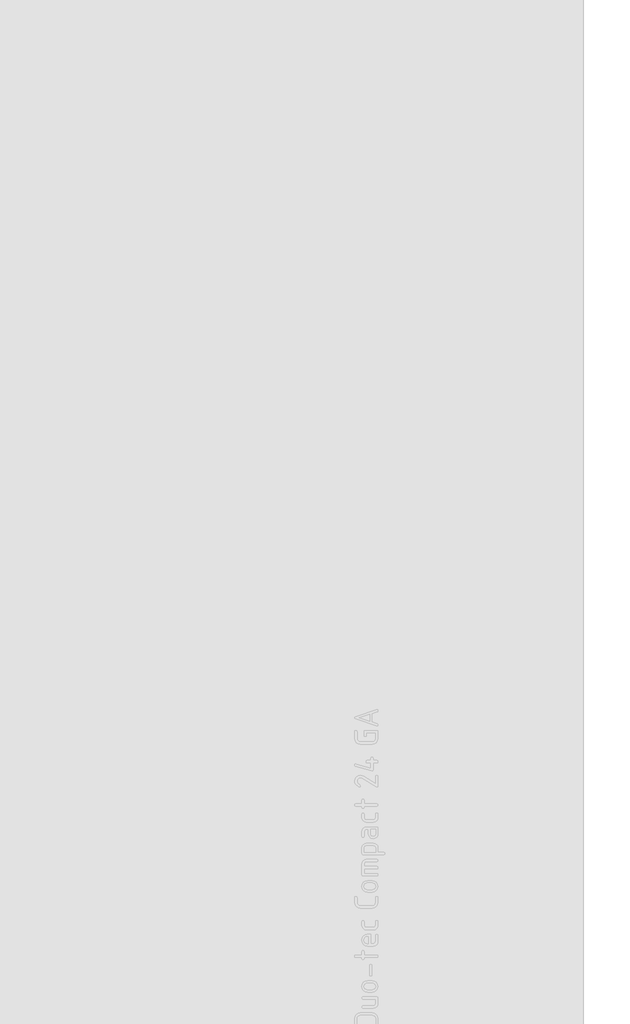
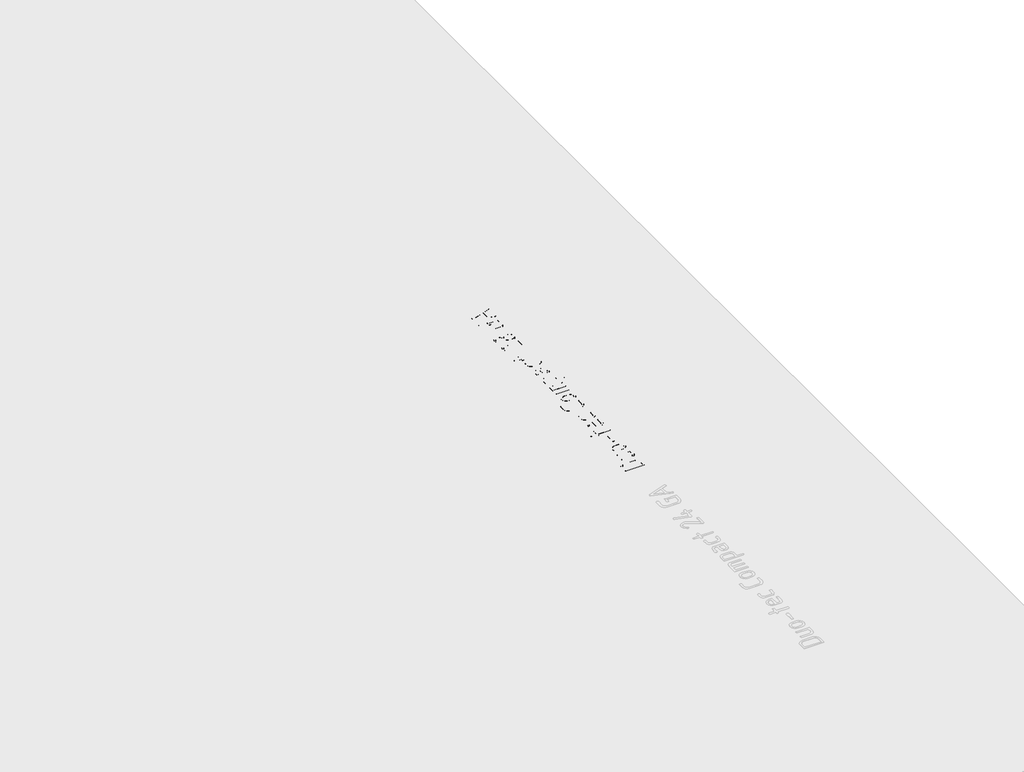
# One storey, part 37 of 37: 1 proxy.
"""IFC4 building model written with IfcOpenShell, lengths in millimetres."""

from ifc_helpers import new_model, si_unit, frame, origin, place, context, project, spatial, polyline, outline, extrude, element, save

model = new_model("IFC4")

# Units and contexts
model_context = context("Model", 3, world=origin())
ifc_project = project(units=[si_unit("LENGTHUNIT", "METRE", prefix="MILLI")], contexts=[model_context])

# Site, building, storey
site = spatial("IfcSite", under=ifc_project)
building = spatial("IfcBuilding", under=site)
storey = spatial("IfcBuildingStorey", under=building, Name="01_Стартовый вид_Площадка", Elevation=0.0)

# Proxy
placement = place(None, origin())
element("IfcBuildingElementProxy", 1, Name="150 мм", ObjectType="150 мм", at=placement, inside=storey, context=model_context, shape_type="SweptSolid", body=[
    extrude(outline(polyline([(25779.2874063, 77.7990173), (25773.6242667, 79.6667547), (25771.7365535, 85.2699669), (25771.7365535, 130.0157613), (25774.4632504, 144.4882291), (25782.6433409, 156.5036734), (25794.7986158, 164.5938729), (25809.4508659, 167.290606), (25884.8794906, 167.290606), (25899.3819222, 164.5639092), (25911.5671608, 156.3838186), (25919.8371424, 144.3384106), (25922.593803, 130.0157613), (25922.593803, 85.2699669), (25920.7060898, 79.6667547), (25915.0429502, 77.7990173), (25779.2874063, 77.7990173)]), holes=[polyline([(25787.0779687, 93.1404325), (25907.2523878, 93.1404325), (25907.2523878, 129.8959065), (25905.6043842, 138.37064), (25900.6603734, 145.4970071), (25893.3791939, 150.3361449), (25884.7196842, 151.9491908), (25809.6106723, 151.9491908), (25800.9511625, 150.3361449), (25793.6699831, 145.4970071), (25788.7259723, 138.37064), (25787.0779687, 129.8959065), (25787.0779687, 93.1404325)])]), frame((0.0, 0.0, -10.0), z_axis=(0.0, 0.0, 1.0), x_axis=(1.0, 0.0, 0.0)), (0.0, 0.0, 1.0), 10.0),
    extrude(outline(polyline([(25825.2317487, 272.1236099), (25915.1228534, 272.1236099), (25920.7260656, 270.2658604), (25922.593803, 264.6926119), (25922.593803, 227.6175251), (25920.4264285, 216.1214516), (25913.9243053, 206.5630308), (25904.2660055, 200.120835), (25892.6301014, 197.9734364), (25825.2317487, 197.9734364), (25819.6285365, 199.8911133), (25817.7607991, 205.644144), (25819.6285365, 211.3971747), (25825.2317487, 213.3148516), (25892.3504402, 213.3148516), (25902.8377357, 217.589673), (25907.2523878, 227.8172831), (25907.2523878, 256.7821947), (25825.2317487, 256.7821947), (25819.6285365, 258.6998716), (25817.7607991, 264.4529023), (25819.6285365, 270.205933), (25825.2317487, 272.1236099)])), frame((0.0, 0.0, -10.0), z_axis=(0.0, 0.0, 1.0), x_axis=(1.0, 0.0, 0.0)), (0.0, 0.0, 1.0), 10.0),
    extrude(outline(polyline([(25885.1591518, 302.8064402), (25855.1954503, 302.8064402), (25840.8028856, 305.5181552), (25828.7075381, 313.6533002), (25820.4974839, 325.6337869), (25817.7607991, 339.881527), (25820.4675201, 354.2790856), (25828.5876833, 366.2296085), (25840.6530671, 374.2748624), (25855.1954503, 376.9566137), (25885.1591518, 376.9566137), (25899.5517165, 374.2448987), (25911.647064, 366.1097537), (25919.8571182, 354.1292671), (25922.593803, 339.881527), (25919.8571182, 325.6337869), (25911.647064, 313.6533002), (25899.5517165, 305.5181552), (25885.1591518, 302.8064402)]), holes=[polyline([(25884.7196842, 361.6151985), (25854.716031, 361.6151985), (25846.086485, 360.0221284), (25838.8152934, 355.242918), (25833.8712826, 348.21643), (25832.2232791, 339.881527), (25833.8712826, 331.546624), (25838.8152934, 324.520136), (25846.086485, 319.7409256), (25854.716031, 318.1478554), (25884.7196842, 318.1478554), (25893.4291334, 319.7259437), (25900.700325, 324.4602086), (25905.6143721, 331.4717147), (25907.2523878, 339.881527), (25905.6043842, 348.21643), (25900.6603734, 355.242918), (25893.3791939, 360.0221284), (25884.7196842, 361.6151985)])]), frame((0.0, 0.0, -10.0), z_axis=(0.0, 0.0, 1.0), x_axis=(1.0, 0.0, 0.0)), (0.0, 0.0, 1.0), 10.0),
    extrude(outline(polyline([(25884.240265, 474.7980872), (25884.240265, 414.7907809), (25882.3225881, 409.157605), (25876.5695574, 407.2798797), (25870.8165267, 409.157605), (25868.8988498, 414.7907809), (25868.8988498, 474.7980872), (25870.8165267, 480.4312631), (25876.5695574, 482.3089884), (25882.3225881, 480.4312631), (25884.240265, 474.7980872)])), frame((0.0, 0.0, -10.0), z_axis=(0.0, 0.0, 1.0), x_axis=(1.0, 0.0, 0.0)), (0.0, 0.0, 1.0), 10.0),
    extrude(outline(polyline([(25833.1022143, 527.8138631), (25833.1022143, 520.302962), (25831.1845374, 514.6697861), (25825.4315067, 512.7920608), (25819.678476, 514.6697861), (25817.7607991, 520.302962), (25817.7607991, 527.8138631), (25779.4072611, 527.8138631), (25773.6542304, 529.73154), (25771.7365535, 535.4845707), (25773.6542304, 541.2376014), (25779.4072611, 543.1552783), (25817.7607991, 543.1552783), (25817.7607991, 565.6879819), (25819.678476, 571.2911941), (25825.4315067, 573.1589315), (25831.1845374, 571.2911941), (25833.1022143, 565.6879819), (25833.1022143, 543.1552783), (25915.1228534, 543.1552783), (25920.7260656, 541.2376014), (25922.593803, 535.4845707), (25920.7260656, 529.73154), (25915.1228534, 527.8138631), (25833.1022143, 527.8138631)])), frame((0.0, 0.0, -10.0), z_axis=(0.0, 0.0, 1.0), x_axis=(1.0, 0.0, 0.0)), (0.0, 0.0, 1.0), 10.0),
    extrude(outline(polyline([(25876.5695574, 617.3054518), (25891.9109726, 617.3054518), (25902.7178809, 621.7400796), (25907.2523878, 632.2873026), (25907.2523878, 669.8018569), (25909.1700647, 675.4350328), (25914.9230954, 677.3127581), (25920.6761261, 675.4350328), (25922.593803, 669.8018569), (25922.593803, 632.2873026), (25920.4264285, 620.6314227), (25913.9243053, 610.8332923), (25904.2660055, 604.1813505), (25892.6301014, 601.9640366), (25855.1954503, 601.9640366), (25840.8028856, 604.7456669), (25828.7075381, 613.0905578), (25820.4974839, 625.3307299), (25817.7607991, 639.7982038), (25820.4175806, 654.3755446), (25828.3879253, 666.4658982), (25840.2335753, 674.6010431), (25854.516273, 677.3127581), (25876.5695574, 677.3127581), (25876.5695574, 617.3054518)]), holes=[polyline([(25831.224489, 639.7982038), (25832.8724926, 631.1686577), (25837.8165034, 623.8974661), (25845.0876949, 618.9534554), (25853.717241, 617.3054518), (25861.2281422, 617.3054518), (25861.2281422, 662.2909557), (25853.717241, 662.2909557), (25845.0876949, 660.6429521), (25837.8165034, 655.6989414), (25832.8724926, 648.4277498), (25831.224489, 639.7982038)])]), frame((0.0, 0.0, -10.0), z_axis=(0.0, 0.0, 1.0), x_axis=(1.0, 0.0, 0.0)), (0.0, 0.0, 1.0), 10.0),
    extrude(outline(polyline([(25847.9242587, 722.1384556), (25892.4303434, 722.1384556), (25902.8776873, 726.5730835), (25907.2523878, 737.1203064), (25907.2523878, 759.65301), (25909.1700647, 765.2562222), (25914.9230954, 767.1239596), (25920.6761261, 765.2562222), (25922.593803, 759.65301), (25922.593803, 737.1203064), (25920.4264285, 725.4644265), (25913.9243053, 715.6662961), (25904.2660055, 709.0143544), (25892.6301014, 706.7970404), (25847.7245007, 706.7970404), (25836.0885966, 709.0143544), (25826.4302968, 715.6662961), (25819.9281735, 725.4644265), (25817.7607991, 737.1203064), (25817.7607991, 759.65301), (25819.678476, 765.2562222), (25825.4315067, 767.1239596), (25831.1845374, 765.2562222), (25833.1022143, 759.65301), (25833.1022143, 737.1203064), (25837.4369631, 726.5131561), (25847.9242587, 722.1384556)])), frame((0.0, 0.0, -10.0), z_axis=(0.0, 0.0, 1.0), x_axis=(1.0, 0.0, 0.0)), (0.0, 0.0, 1.0), 10.0),
    extrude(outline(polyline([(25771.7365535, 915.2645001), (25773.6542304, 920.897676), (25779.4072611, 922.7754013), (25785.1602918, 920.897676), (25787.0779687, 915.2645001), (25787.0779687, 885.2608469), (25788.7259723, 876.5563916), (25793.6699831, 869.3001819), (25800.9511625, 864.4011167), (25809.6106723, 862.768095), (25884.7196842, 862.768095), (25893.3791939, 864.4160985), (25900.6603734, 869.3601093), (25905.6043842, 876.6313009), (25907.2523878, 885.2608469), (25907.2523878, 915.2645001), (25909.1700647, 920.897676), (25914.9230954, 922.7754013), (25920.6761261, 920.897676), (25922.593803, 915.2645001), (25922.593803, 885.2608469), (25919.8371424, 870.793373), (25911.5671608, 858.5532009), (25899.3819222, 850.2083101), (25884.8794906, 847.4266798), (25809.4508659, 847.4266798), (25794.9484343, 850.2083101), (25782.7631957, 858.5532009), (25774.4932141, 870.793373), (25771.7365535, 885.2608469), (25771.7365535, 915.2645001)])), frame((0.0, 0.0, -10.0), z_axis=(0.0, 0.0, 1.0), x_axis=(1.0, 0.0, 0.0)), (0.0, 0.0, 1.0), 10.0),
    extrude(outline(polyline([(25885.1591518, 952.2596836), (25855.1954503, 952.2596836), (25840.8028856, 954.9713986), (25828.7075381, 963.1065436), (25820.4974839, 975.0870302), (25817.7607991, 989.3347703), (25820.4675201, 1003.7323289), (25828.5876833, 1015.6828519), (25840.6530671, 1023.7281058), (25855.1954503, 1026.4098571), (25885.1591518, 1026.4098571), (25899.5517165, 1023.6981421), (25911.647064, 1015.5629971), (25919.8571182, 1003.5825104), (25922.593803, 989.3347703), (25919.8571182, 975.0870302), (25911.647064, 963.1065436), (25899.5517165, 954.9713986), (25885.1591518, 952.2596836)]), holes=[polyline([(25884.7196842, 1011.0684419), (25854.716031, 1011.0684419), (25846.086485, 1009.4753717), (25838.8152934, 1004.6961613), (25833.8712826, 997.6696733), (25832.2232791, 989.3347703), (25833.8712826, 980.9998674), (25838.8152934, 973.9733793), (25846.086485, 969.1941689), (25854.716031, 967.6010988), (25884.7196842, 967.6010988), (25893.4291334, 969.1791871), (25900.700325, 973.9134519), (25905.6143721, 980.9249581), (25907.2523878, 989.3347703), (25905.6043842, 997.6696733), (25900.6603734, 1004.6961613), (25893.3791939, 1009.4753717), (25884.7196842, 1011.0684419)])]), frame((0.0, 0.0, -10.0), z_axis=(0.0, 0.0, 1.0), x_axis=(1.0, 0.0, 0.0)), (0.0, 0.0, 1.0), 10.0),
    extrude(outline(polyline([(25817.7607991, 1064.7633951), (25817.7607991, 1133.7997634), (25819.9281735, 1145.7003469), (25826.4302968, 1155.5933624), (25836.0885966, 1162.260286), (25847.7245007, 1164.4825938), (25915.1228534, 1164.4825938), (25920.7260656, 1162.5649169), (25922.593803, 1156.8118862), (25920.7260656, 1151.0588555), (25915.1228534, 1149.1411786), (25848.0041619, 1149.1411786), (25837.3970115, 1144.7265266), (25833.1022143, 1133.7997634), (25833.1022143, 1118.4583482), (25915.1228534, 1118.4583482), (25920.7260656, 1116.5406713), (25922.593803, 1110.7876406), (25920.7260656, 1105.0346099), (25915.1228534, 1103.116933), (25833.1022143, 1103.116933), (25833.1022143, 1072.4341027), (25915.1228534, 1072.4341027), (25920.7260656, 1070.5164258), (25922.593803, 1064.7633951), (25920.7260656, 1059.0103644), (25915.1228534, 1057.0926875), (25825.2317487, 1057.0926875), (25819.6285365, 1059.0103644), (25817.7607991, 1064.7633951)])), frame((0.0, 0.0, -10.0), z_axis=(0.0, 0.0, 1.0), x_axis=(1.0, 0.0, 0.0)), (0.0, 0.0, 1.0), 10.0),
    extrude(outline(polyline([(25825.3116519, 1195.1654242), (25819.6485123, 1197.0231737), (25817.7607991, 1202.5964222), (25817.7607991, 1239.6715089), (25819.9281735, 1251.1675824), (25826.4302968, 1260.7260032), (25836.0885966, 1267.1681991), (25847.7245007, 1269.3155977), (25892.6301014, 1269.3155977), (25904.1910963, 1267.1831809), (25913.8643779, 1260.7859306), (25920.4114467, 1251.3024191), (25922.593803, 1239.9112186), (25922.593803, 1210.5068394), (25960.947341, 1210.5068394), (25966.7003717, 1208.5891625), (25968.6180486, 1202.8361318), (25966.7303354, 1197.0831011), (25961.0671958, 1195.1654242), (25825.3116519, 1195.1654242)]), holes=[polyline([(25833.1022143, 1210.5068394), (25907.2523878, 1210.5068394), (25907.2523878, 1239.4717509), (25902.9176389, 1249.7393127), (25892.4303434, 1253.9741825), (25847.9242587, 1253.9741825), (25837.3770357, 1249.7992401), (25833.1022143, 1239.4717509), (25833.1022143, 1210.5068394)])]), frame((0.0, 0.0, -10.0), z_axis=(0.0, 0.0, 1.0), x_axis=(1.0, 0.0, 0.0)), (0.0, 0.0, 1.0), 10.0),
    extrude(outline(polyline([(25922.593803, 1328.8035332), (25920.3714951, 1317.1876049), (25913.7045715, 1307.5093293), (25903.811556, 1300.9772423), (25891.9109726, 1298.79988), (25876.4497026, 1302.7950402), (25865.0335323, 1313.5520091), (25861.2281422, 1328.8035332), (25861.2281422, 1358.8071863), (25847.1651782, 1358.8071863), (25837.1573019, 1354.4924133), (25833.1022143, 1343.8253356), (25833.1022143, 1313.8216824), (25831.1845374, 1308.1885065), (25825.4315067, 1306.3107812), (25819.678476, 1308.1885065), (25817.7607991, 1313.8216824), (25817.7607991, 1343.8253356), (25819.9281735, 1355.5061852), (25826.4302968, 1365.2993217), (25836.0885966, 1371.9362816), (25847.7245007, 1374.1486015), (25915.1228534, 1374.1486015), (25920.7260656, 1372.2309246), (25922.593803, 1366.4778939), (25922.593803, 1328.8035332)]), holes=[polyline([(25876.5695574, 1358.8071863), (25876.5695574, 1328.8035332), (25881.0441368, 1318.1963828), (25891.9109726, 1313.8216824), (25902.7178809, 1318.2563102), (25907.2523878, 1328.8035332), (25907.2523878, 1358.8071863), (25876.5695574, 1358.8071863)])]), frame((0.0, 0.0, -10.0), z_axis=(0.0, 0.0, 1.0), x_axis=(1.0, 0.0, 0.0)), (0.0, 0.0, 1.0), 10.0),
    extrude(outline(polyline([(25847.9242587, 1420.1728471), (25892.4303434, 1420.1728471), (25902.8776873, 1424.607475), (25907.2523878, 1435.1546979), (25907.2523878, 1457.6874015), (25909.1700647, 1463.2906137), (25914.9230954, 1465.1583511), (25920.6761261, 1463.2906137), (25922.593803, 1457.6874015), (25922.593803, 1435.1546979), (25920.4264285, 1423.498818), (25913.9243053, 1413.7006876), (25904.2660055, 1407.0487458), (25892.6301014, 1404.8314319), (25847.7245007, 1404.8314319), (25836.0885966, 1407.0487458), (25826.4302968, 1413.7006876), (25819.9281735, 1423.498818), (25817.7607991, 1435.1546979), (25817.7607991, 1457.6874015), (25819.678476, 1463.2906137), (25825.4315067, 1465.1583511), (25831.1845374, 1463.2906137), (25833.1022143, 1457.6874015), (25833.1022143, 1435.1546979), (25837.4369631, 1424.5475476), (25847.9242587, 1420.1728471)])), frame((0.0, 0.0, -10.0), z_axis=(0.0, 0.0, 1.0), x_axis=(1.0, 0.0, 0.0)), (0.0, 0.0, 1.0), 10.0),
    extrude(outline(polyline([(25833.1022143, 1509.6644358), (25833.1022143, 1502.1535346), (25831.1845374, 1496.5203587), (25825.4315067, 1494.6426334), (25819.678476, 1496.5203587), (25817.7607991, 1502.1535346), (25817.7607991, 1509.6644358), (25779.4072611, 1509.6644358), (25773.6542304, 1511.5821127), (25771.7365535, 1517.3351434), (25773.6542304, 1523.0881741), (25779.4072611, 1525.005851), (25817.7607991, 1525.005851), (25817.7607991, 1547.5385546), (25819.678476, 1553.1417667), (25825.4315067, 1555.0095041), (25831.1845374, 1553.1417667), (25833.1022143, 1547.5385546), (25833.1022143, 1525.005851), (25915.1228534, 1525.005851), (25920.7260656, 1523.0881741), (25922.593803, 1517.3351434), (25920.7260656, 1511.5821127), (25915.1228534, 1509.6644358), (25833.1022143, 1509.6644358)])), frame((0.0, 0.0, -10.0), z_axis=(0.0, 0.0, 1.0), x_axis=(1.0, 0.0, 0.0)), (0.0, 0.0, 1.0), 10.0),
    extrude(outline(polyline([(25771.7365535, 1672.1076498), (25774.4882201, 1686.5351721), (25782.7432199, 1698.6554894), (25794.9034888, 1706.8805255), (25809.3709627, 1709.6222042), (25820.1678831, 1707.9142732), (25831.0646826, 1702.7904802), (25907.2523878, 1655.527735), (25907.2523878, 1702.111303), (25909.1700647, 1707.7444789), (25914.9230954, 1709.6222042), (25920.6761261, 1707.7444789), (25922.593803, 1702.111303), (25922.593803, 1642.1039967), (25920.7160777, 1636.4708208), (25915.0829018, 1634.5930955), (25910.7281771, 1635.8715467), (25822.1155237, 1690.8449512), (25809.6506239, 1694.6004018), (25800.9861202, 1692.9523982), (25793.6899589, 1688.0083875), (25788.7309662, 1680.7371959), (25787.0779687, 1672.1076498), (25791.7922578, 1659.8724717), (25805.9351249, 1648.5761562), (25809.5707207, 1642.1039967), (25807.6929954, 1636.4708208), (25802.0598195, 1634.5930955), (25798.9835461, 1635.3122243), (25778.5483017, 1651.4826353), (25773.4394906, 1661.2383171), (25771.7365535, 1672.1076498)])), frame((0.0, 0.0, -10.0), z_axis=(0.0, 0.0, 1.0), x_axis=(1.0, 0.0, 0.0)), (0.0, 0.0, 1.0), 10.0),
    extrude(outline(polyline([(25922.593803, 1776.8607505), (25919.8371424, 1762.6130104), (25911.5671608, 1750.6325237), (25899.3819222, 1742.4973787), (25884.8794906, 1739.7856637), (25869.777785, 1739.7856637), (25852.8682694, 1743.6210175), (25839.6143254, 1755.1270789), (25826.3603815, 1743.6210175), (25809.4508659, 1739.7856637), (25794.9484343, 1742.4973787), (25782.7631957, 1750.6325237), (25774.4932141, 1762.6130104), (25771.7365535, 1776.8607505), (25774.4932141, 1791.1084906), (25782.7631957, 1803.0889772), (25794.9484343, 1811.2241222), (25809.4508659, 1813.9358372), (25826.3603815, 1810.1004834), (25839.6143254, 1798.594422), (25848.793206, 1806.8444278), (25859.8697877, 1811.3789347), (25884.8794906, 1813.9358372), (25899.3819222, 1811.2241222), (25911.5671608, 1803.0889772), (25919.8371424, 1791.1084906), (25922.593803, 1776.8607505)]), holes=[polyline([(25907.2523878, 1776.8607505), (25905.6143721, 1785.2705627), (25900.700325, 1792.2820689), (25893.4291334, 1797.0163337), (25884.7196842, 1798.594422), (25869.7378334, 1798.594422), (25861.1082874, 1797.0013519), (25853.8370958, 1792.2221415), (25848.893085, 1785.1956535), (25847.2450814, 1776.8607505), (25848.8781032, 1768.4509382), (25853.7771684, 1761.4394321), (25861.0333781, 1756.7051672), (25869.7378334, 1755.1270789), (25884.7196842, 1755.1270789), (25893.4291334, 1756.7051672), (25900.700325, 1761.4394321), (25905.6143721, 1768.4509382), (25907.2523878, 1776.8607505)]), polyline([(25832.5828435, 1776.8607505), (25830.9498217, 1785.2705627), (25826.0507565, 1792.2820689), (25818.7945468, 1797.0163337), (25810.0900915, 1798.594422), (25801.4605455, 1797.0013519), (25794.1893539, 1792.2221415), (25789.2453431, 1785.1956535), (25787.5973395, 1776.8607505), (25789.2303613, 1768.4509382), (25794.1294265, 1761.4394321), (25801.3856362, 1756.7051672), (25810.0900915, 1755.1270789), (25818.7945468, 1756.7051672), (25826.0507565, 1761.4394321), (25830.9498217, 1768.4509382), (25832.5828435, 1776.8607505)])]), frame((0.0, 0.0, -10.0), z_axis=(0.0, 0.0, 1.0), x_axis=(1.0, 0.0, 0.0)), (0.0, 0.0, 1.0), 10.0),
    extrude(outline(polyline([(25907.2523878, 1933.1514178), (25907.2523878, 1969.9068917), (25848.4436295, 1969.9068917), (25848.4436295, 1954.8850893), (25846.5259526, 1949.2818771), (25840.7729219, 1947.4141397), (25835.0198912, 1949.2818771), (25833.1022143, 1954.8850893), (25833.1022143, 1977.5775993), (25834.9699517, 1983.33063), (25840.5731639, 1985.2483069), (25915.1228534, 1985.2483069), (25920.7260656, 1983.3805695), (25922.593803, 1977.7773573), (25922.593803, 1933.031563), (25919.8371424, 1918.7089136), (25911.5671608, 1906.6635056), (25899.3819222, 1898.4834151), (25884.8794906, 1895.7567183), (25809.4508659, 1895.7567183), (25794.9484343, 1898.4834151), (25782.7631957, 1906.6635056), (25774.4932141, 1918.7089136), (25771.7365535, 1933.031563), (25771.7365535, 1977.7773573), (25773.6542304, 1983.3805695), (25779.4072611, 1985.2483069), (25785.1602918, 1983.3905574), (25787.0779687, 1977.8173089), (25787.0779687, 1933.3511758), (25788.7259723, 1924.7266237), (25793.6699831, 1917.5503172), (25800.9511625, 1912.7111794), (25809.6106723, 1911.0981335), (25884.7196842, 1911.0981335), (25893.4291334, 1912.7011915), (25900.700325, 1917.5103656), (25905.6143721, 1924.6267447), (25907.2523878, 1933.1514178)])), frame((0.0, 0.0, -10.0), z_axis=(0.0, 0.0, 1.0), x_axis=(1.0, 0.0, 0.0)), (0.0, 0.0, 1.0), 10.0),
    extrude(outline(polyline([(25915.0429502, 2120.6043347), (25920.7060898, 2118.7266094), (25922.593803, 2113.0934336), (25921.285388, 2108.5689146), (25917.3601431, 2105.9420968), (25884.240265, 2095.1551642), (25884.240265, 2041.060695), (25917.3601431, 2030.2338108), (25921.285388, 2027.606993), (25922.593803, 2023.0824741), (25920.7060898, 2017.4492982), (25915.0429502, 2015.5715729), (25912.645854, 2015.9311373), (25777.809197, 2060.5970284), (25773.2547144, 2063.4935196), (25771.7365535, 2068.1079296), (25773.194787, 2072.6624123), (25777.5694874, 2075.4590244), (25912.645854, 2120.2447703), (25915.0429502, 2120.6043347)]), holes=[polyline([(25802.7389967, 2068.1079296), (25868.8988498, 2046.0546453), (25868.8988498, 2090.1212624), (25802.7389967, 2068.1079296)])]), frame((0.0, 0.0, -10.0), z_axis=(0.0, 0.0, 1.0), x_axis=(1.0, 0.0, 0.0)), (0.0, 0.0, 1.0), 10.0),
])

save(model, "model.ifc")
